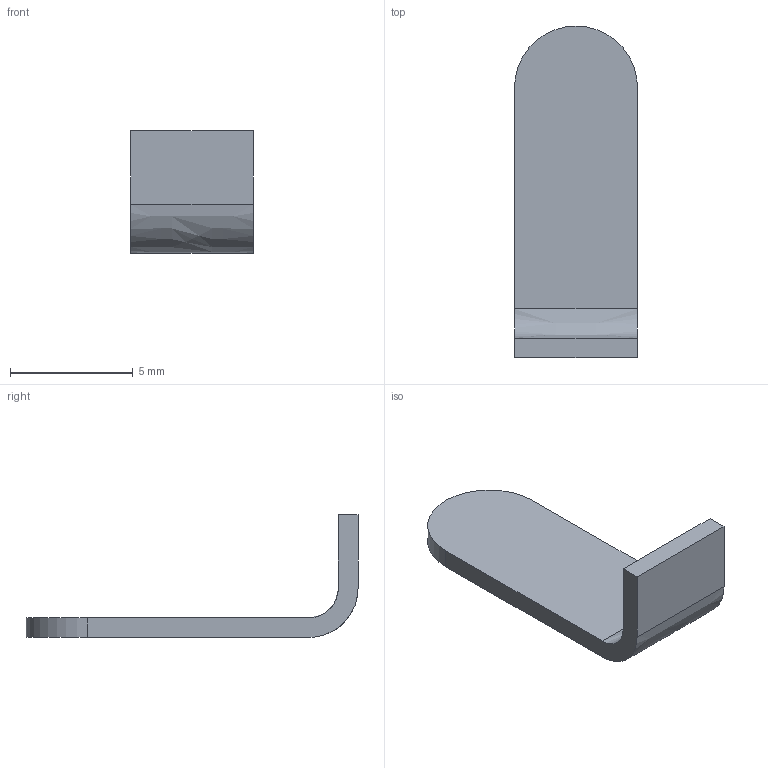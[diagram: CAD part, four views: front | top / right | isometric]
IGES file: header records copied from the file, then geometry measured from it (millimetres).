
Start section:  PTC IGES file: C:\Documents and Settings\audibk\personal\guns\walther\W alther_PPK\iges\auswerferh01.igs
Global section: file name: C:\Documents and Settings\audibk\personal\guns\walther\Walther_PPK\iges\auswerferh01.igs; native system: Pro/ENGINEER by Parametric Technology Corporation; preprocessor: 2002180; author: audibk; organization: Unknown; date: 030409.105323; units: millimetre
Bounding box: 5 x 13.5 x 5 mm (x, y, z)
Volume: 66 mm3; surface area: 198.3 mm2
Topology: 1 solids, 1 shells, 10 faces, 24 edges, 16 vertices
Faces by surface type: bspline 10
